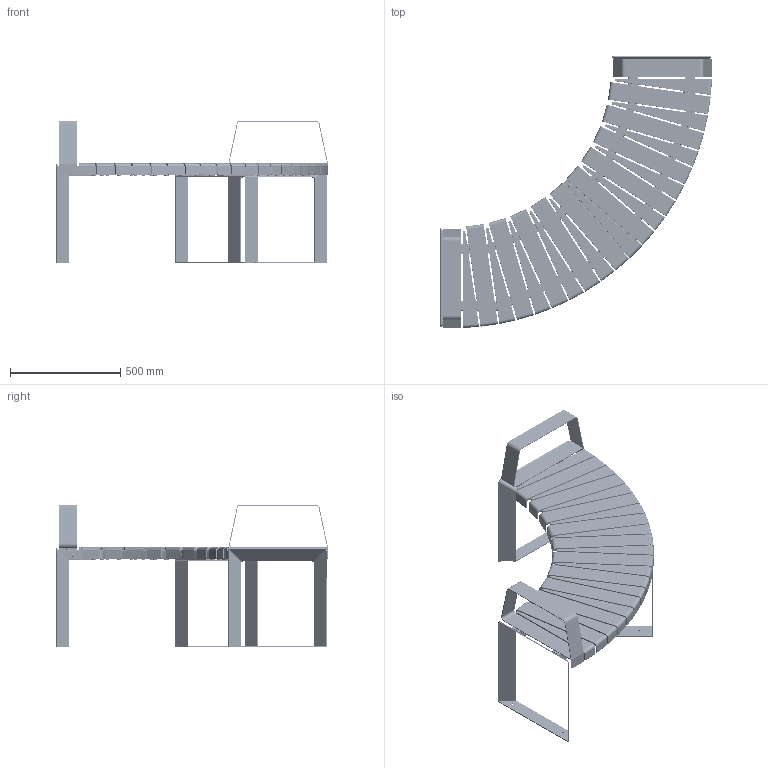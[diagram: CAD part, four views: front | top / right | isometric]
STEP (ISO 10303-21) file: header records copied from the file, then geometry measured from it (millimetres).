
FILE_DESCRIPTION(('STEP AP203'),'1');
FILE_NAME('UT80PC1201AXX + FIANCHI.stp','2026-01-19T08:25:09',(' '),(' '),'Spatial InterOp 3D',' ',' ');
FILE_SCHEMA(('CONFIG_CONTROL_DESIGN'));
Length unit declared in the file: millimetre
Products named in the file (1): UT80PC1201AXX + FIANCHI
Bounding box: 1236.58 x 1236.58 x 648 mm (x, y, z)
Surface area: 3888105 mm2 (no closed solid volume)
Topology: 0 solids, 495 shells, 4082 faces, 18639 edges, 14775 vertices
Faces by surface type: plane 1754, cylinder 1404, torus 548, bspline 325, cone 44, extrusion 7
Full cylindrical faces by diameter (mm): 6.8 x12, 8 x4, 10 x6, 13 x12, 17.5 x41, 17.8 x12, 19 x2, 25 x4
Entity records: 240452 total; most frequent: CARTESIAN_POINT 99005, DIRECTION 27066, ORIENTED_EDGE 25552, EDGE_CURVE 18354, VERTEX_POINT 14751, VECTOR 11198, LINE 11191, AXIS2_PLACEMENT_3D 7934
